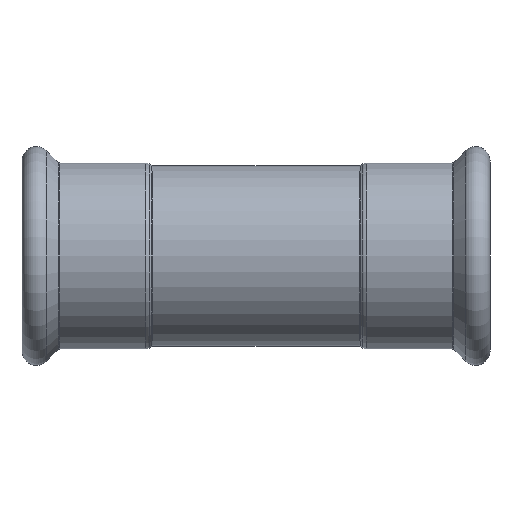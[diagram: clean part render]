
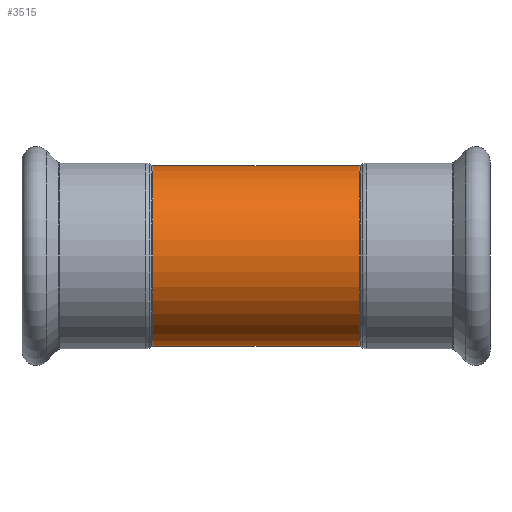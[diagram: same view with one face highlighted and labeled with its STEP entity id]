
A CAD part, front view. The second image highlights one B-rep face of the part: STEP entity #3515.
In plain terms, the highlighted cylindrical face has radius 22 mm (diameter 44 mm), a partial arc.
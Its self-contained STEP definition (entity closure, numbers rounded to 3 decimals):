
#70 = LINE ( 'NONE', #3521, #1439 ) ;
#177 = DIRECTION ( 'NONE',  ( 0., 0., 1. ) ) ;
#284 = CARTESIAN_POINT ( 'NONE',  ( 25.154, 0., -22. ) ) ;
#448 = ORIENTED_EDGE ( 'NONE', *, *, #2632, .T. ) ;
#461 = CYLINDRICAL_SURFACE ( 'NONE', #3646, 22. ) ;
#606 = CARTESIAN_POINT ( 'NONE',  ( -25.154, 0., -22. ) ) ;
#660 = FACE_OUTER_BOUND ( 'NONE', #3530, .T. ) ;
#707 = CARTESIAN_POINT ( 'NONE',  ( 25.154, 0., 22. ) ) ;
#807 = VERTEX_POINT ( 'NONE', #1009 ) ;
#1008 = DIRECTION ( 'NONE',  ( -1., 0., 0. ) ) ;
#1009 = CARTESIAN_POINT ( 'NONE',  ( -25.154, 0., 22. ) ) ;
#1105 = EDGE_CURVE ( 'NONE', #3219, #2833, #2938, .T. ) ;
#1174 = DIRECTION ( 'NONE',  ( -1., 0., 0. ) ) ;
#1416 = EDGE_CURVE ( 'NONE', #3219, #3228, #3234, .T. ) ;
#1432 = ORIENTED_EDGE ( 'NONE', *, *, #1105, .T. ) ;
#1439 = VECTOR ( 'NONE', #1571, 1000. ) ;
#1472 = DIRECTION ( 'NONE',  ( -1., 0., 0. ) ) ;
#1511 = CIRCLE ( 'NONE', #2370, 22. ) ;
#1559 = DIRECTION ( 'NONE',  ( -1., 0., 0. ) ) ;
#1571 = DIRECTION ( 'NONE',  ( -1., 0., 0. ) ) ;
#1675 = ORIENTED_EDGE ( 'NONE', *, *, #1416, .F. ) ;
#1834 = ORIENTED_EDGE ( 'NONE', *, *, #3805, .F. ) ;
#1860 = CARTESIAN_POINT ( 'NONE',  ( 27.146, 0., -22. ) ) ;
#2062 = DIRECTION ( 'NONE',  ( 0., 0., 1. ) ) ;
#2284 = AXIS2_PLACEMENT_3D ( 'NONE', #3166, #1559, #2805 ) ;
#2370 = AXIS2_PLACEMENT_3D ( 'NONE', #2812, #1472, #177 ) ;
#2455 = VECTOR ( 'NONE', #1174, 1000. ) ;
#2623 = CARTESIAN_POINT ( 'NONE',  ( 27.146, 0., 0. ) ) ;
#2632 = EDGE_CURVE ( 'NONE', #2833, #807, #70, .T. ) ;
#2805 = DIRECTION ( 'NONE',  ( 0., 0., 1. ) ) ;
#2812 = CARTESIAN_POINT ( 'NONE',  ( -25.154, 0., 0. ) ) ;
#2833 = VERTEX_POINT ( 'NONE', #707 ) ;
#2938 = CIRCLE ( 'NONE', #2284, 22. ) ;
#3166 = CARTESIAN_POINT ( 'NONE',  ( 25.154, 0., 0. ) ) ;
#3219 = VERTEX_POINT ( 'NONE', #284 ) ;
#3228 = VERTEX_POINT ( 'NONE', #606 ) ;
#3234 = LINE ( 'NONE', #1860, #2455 ) ;
#3515 = ADVANCED_FACE ( 'NONE', ( #660 ), #461, .T. ) ;
#3521 = CARTESIAN_POINT ( 'NONE',  ( 27.146, 0., 22. ) ) ;
#3530 = EDGE_LOOP ( 'NONE', ( #1675, #1432, #448, #1834 ) ) ;
#3646 = AXIS2_PLACEMENT_3D ( 'NONE', #2623, #1008, #2062 ) ;
#3805 = EDGE_CURVE ( 'NONE', #3228, #807, #1511, .T. ) ;
